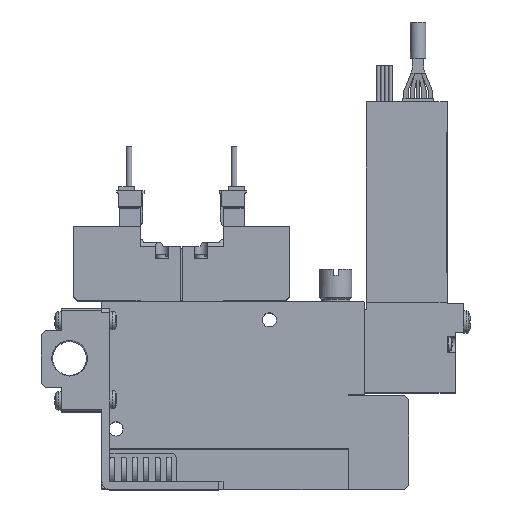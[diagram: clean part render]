
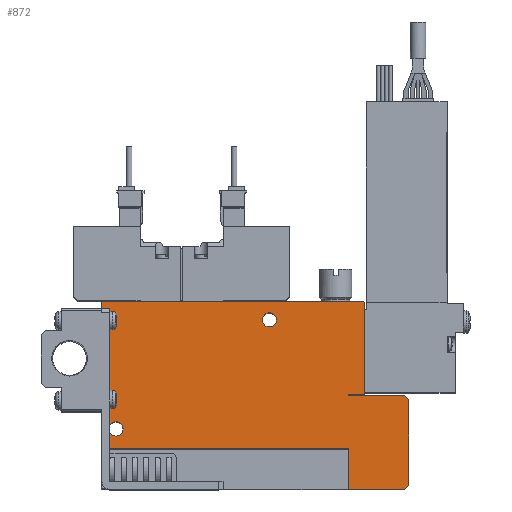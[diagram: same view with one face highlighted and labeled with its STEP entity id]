
A CAD part, top view. The second image highlights one B-rep face of the part: STEP entity #872.
In plain terms, the highlighted planar face has unit normal (0, 0, 1).
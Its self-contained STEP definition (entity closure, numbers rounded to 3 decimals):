
#872=ADVANCED_FACE('',(#2067,#2068,#2069),#2070,.F.);
#2067=FACE_OUTER_BOUND('',#3814,.T.);
#2068=FACE_BOUND('',#3815,.T.);
#2069=FACE_BOUND('',#3816,.T.);
#2070=PLANE('',#3817);
#3814=EDGE_LOOP('',(#7752,#7753,#7754,#7755,#7756,#7757,#7758,#7759,#7760,#7761,#7762,#7763,#7764,#7765));
#3815=EDGE_LOOP('',(#7766));
#3816=EDGE_LOOP('',(#7767));
#3817=AXIS2_PLACEMENT_3D('',#7768,#7769,#7770);
#7752=ORIENTED_EDGE('',*,*,#11828,.T.);
#7753=ORIENTED_EDGE('',*,*,#11829,.F.);
#7754=ORIENTED_EDGE('',*,*,#11830,.F.);
#7755=ORIENTED_EDGE('',*,*,#11831,.T.);
#7756=ORIENTED_EDGE('',*,*,#11832,.T.);
#7757=ORIENTED_EDGE('',*,*,#11833,.T.);
#7758=ORIENTED_EDGE('',*,*,#11834,.T.);
#7759=ORIENTED_EDGE('',*,*,#11835,.T.);
#7760=ORIENTED_EDGE('',*,*,#11836,.T.);
#7761=ORIENTED_EDGE('',*,*,#11837,.T.);
#7762=ORIENTED_EDGE('',*,*,#11838,.T.);
#7763=ORIENTED_EDGE('',*,*,#11839,.T.);
#7764=ORIENTED_EDGE('',*,*,#11840,.T.);
#7765=ORIENTED_EDGE('',*,*,#11841,.T.);
#7766=ORIENTED_EDGE('',*,*,#11842,.F.);
#7767=ORIENTED_EDGE('',*,*,#11843,.F.);
#7768=CARTESIAN_POINT('',(0.0,0.0,5.0));
#7769=DIRECTION('',(0.0,0.0,-1.0));
#7770=DIRECTION('',(0.0,-1.0,0.0));
#11828=EDGE_CURVE('',#14410,#14411,#14412,.T.);
#11829=EDGE_CURVE('',#14413,#14411,#14414,.T.);
#11830=EDGE_CURVE('',#14415,#14413,#14416,.T.);
#11831=EDGE_CURVE('',#14415,#14417,#14418,.T.);
#11832=EDGE_CURVE('',#14417,#14419,#14420,.T.);
#11833=EDGE_CURVE('',#14419,#14421,#14422,.T.);
#11834=EDGE_CURVE('',#14421,#14423,#14424,.T.);
#11835=EDGE_CURVE('',#14423,#14425,#14426,.T.);
#11836=EDGE_CURVE('',#14425,#14427,#14428,.T.);
#11837=EDGE_CURVE('',#14427,#14429,#14430,.T.);
#11838=EDGE_CURVE('',#14429,#14431,#14432,.T.);
#11839=EDGE_CURVE('',#14431,#14433,#14434,.T.);
#11840=EDGE_CURVE('',#14433,#14435,#14436,.T.);
#11841=EDGE_CURVE('',#14435,#14410,#14437,.T.);
#11842=EDGE_CURVE('',#14438,#14438,#14439,.T.);
#11843=EDGE_CURVE('',#14440,#14440,#14441,.T.);
#14410=VERTEX_POINT('',#18679);
#14411=VERTEX_POINT('',#18680);
#14412=LINE('',#18681,#18682);
#14413=VERTEX_POINT('',#18683);
#14414=LINE('',#18684,#18685);
#14415=VERTEX_POINT('',#18686);
#14416=LINE('',#18687,#18688);
#14417=VERTEX_POINT('',#18689);
#14418=LINE('',#18690,#18691);
#14419=VERTEX_POINT('',#18692);
#14420=LINE('',#18693,#18694);
#14421=VERTEX_POINT('',#18695);
#14422=LINE('',#18696,#18697);
#14423=VERTEX_POINT('',#18698);
#14424=LINE('',#18699,#18700);
#14425=VERTEX_POINT('',#18701);
#14426=LINE('',#18702,#18703);
#14427=VERTEX_POINT('',#18704);
#14428=LINE('',#18705,#18706);
#14429=VERTEX_POINT('',#18707);
#14430=LINE('',#18708,#18709);
#14431=VERTEX_POINT('',#18710);
#14432=LINE('',#18711,#18712);
#14433=VERTEX_POINT('',#18713);
#14434=LINE('',#18714,#18715);
#14435=VERTEX_POINT('',#18716);
#14436=LINE('',#18717,#18718);
#14437=LINE('',#18719,#18720);
#14438=VERTEX_POINT('',#18721);
#14439=CIRCLE('',#18722,1.75);
#14440=VERTEX_POINT('',#18723);
#14441=CIRCLE('',#18724,1.75);
#18679=CARTESIAN_POINT('',(0.0,46.4,5.0));
#18680=CARTESIAN_POINT('',(0.0,10.1,5.0));
#18681=CARTESIAN_POINT('',(0.0,46.4,5.0));
#18682=VECTOR('',#23143,1.0);
#18683=CARTESIAN_POINT('',(61.1,10.1,5.0));
#18684=CARTESIAN_POINT('',(61.1,10.1,5.0));
#18685=VECTOR('',#23144,1.0);
#18686=CARTESIAN_POINT('',(61.1,0.0,5.0));
#18687=CARTESIAN_POINT('',(61.1,0.0,5.0));
#18688=VECTOR('',#23145,1.0);
#18689=CARTESIAN_POINT('',(75.0,0.0,5.0));
#18690=CARTESIAN_POINT('',(0.0,0.0,5.0));
#18691=VECTOR('',#23146,1.0);
#18692=CARTESIAN_POINT('',(76.0,1.0,5.0));
#18693=CARTESIAN_POINT('',(75.0,0.0,5.0));
#18694=VECTOR('',#23147,1.0);
#18695=CARTESIAN_POINT('',(76.0,22.25,5.0));
#18696=CARTESIAN_POINT('',(76.0,1.0,5.0));
#18697=VECTOR('',#23148,1.0);
#18698=CARTESIAN_POINT('',(75.0,23.25,5.0));
#18699=CARTESIAN_POINT('',(76.0,22.25,5.0));
#18700=VECTOR('',#23149,1.0);
#18701=CARTESIAN_POINT('',(61.0,23.25,5.0));
#18702=CARTESIAN_POINT('',(75.0,23.25,5.0));
#18703=VECTOR('',#23150,1.0);
#18704=CARTESIAN_POINT('',(61.0,23.5,5.0));
#18705=CARTESIAN_POINT('',(61.0,23.25,5.0));
#18706=VECTOR('',#23151,1.0);
#18707=CARTESIAN_POINT('',(65.0,23.5,5.0));
#18708=CARTESIAN_POINT('',(61.0,23.5,5.0));
#18709=VECTOR('',#23152,1.0);
#18710=CARTESIAN_POINT('',(65.0,46.4,5.0));
#18711=CARTESIAN_POINT('',(65.0,23.5,5.0));
#18712=VECTOR('',#23153,1.0);
#18713=CARTESIAN_POINT('',(64.8,46.6,5.0));
#18714=CARTESIAN_POINT('',(65.0,46.4,5.0));
#18715=VECTOR('',#23154,1.0);
#18716=CARTESIAN_POINT('',(0.2,46.6,5.0));
#18717=CARTESIAN_POINT('',(64.8,46.6,5.0));
#18718=VECTOR('',#23155,1.0);
#18719=CARTESIAN_POINT('',(0.2,46.6,5.0));
#18720=VECTOR('',#23156,1.0);
#18721=CARTESIAN_POINT('',(5.25,15.0,5.0));
#18722=AXIS2_PLACEMENT_3D('',#23157,#23158,#23159);
#18723=CARTESIAN_POINT('',(43.25,42.0,5.0));
#18724=AXIS2_PLACEMENT_3D('',#23160,#23161,#23162);
#23143=DIRECTION('',(0.0,-1.0,0.0));
#23144=DIRECTION('',(-1.0,0.0,0.0));
#23145=DIRECTION('',(0.0,1.0,0.0));
#23146=DIRECTION('',(1.0,0.0,0.0));
#23147=DIRECTION('',(0.707,0.707,0.0));
#23148=DIRECTION('',(0.0,1.0,0.0));
#23149=DIRECTION('',(-0.707,0.707,0.0));
#23150=DIRECTION('',(-1.0,0.0,0.0));
#23151=DIRECTION('',(0.0,1.0,0.0));
#23152=DIRECTION('',(1.0,0.,0.0));
#23153=DIRECTION('',(0.0,1.0,0.0));
#23154=DIRECTION('',(-0.707,0.707,0.0));
#23155=DIRECTION('',(-1.0,0.0,0.0));
#23156=DIRECTION('',(-0.707,-0.707,0.0));
#23157=CARTESIAN_POINT('',(3.5,15.0,5.0));
#23158=DIRECTION('',(0.0,0.0,1.0));
#23159=DIRECTION('',(1.0,0.0,0.0));
#23160=CARTESIAN_POINT('',(41.5,42.0,5.0));
#23161=DIRECTION('',(0.0,0.0,1.0));
#23162=DIRECTION('',(1.0,0.0,0.0));
